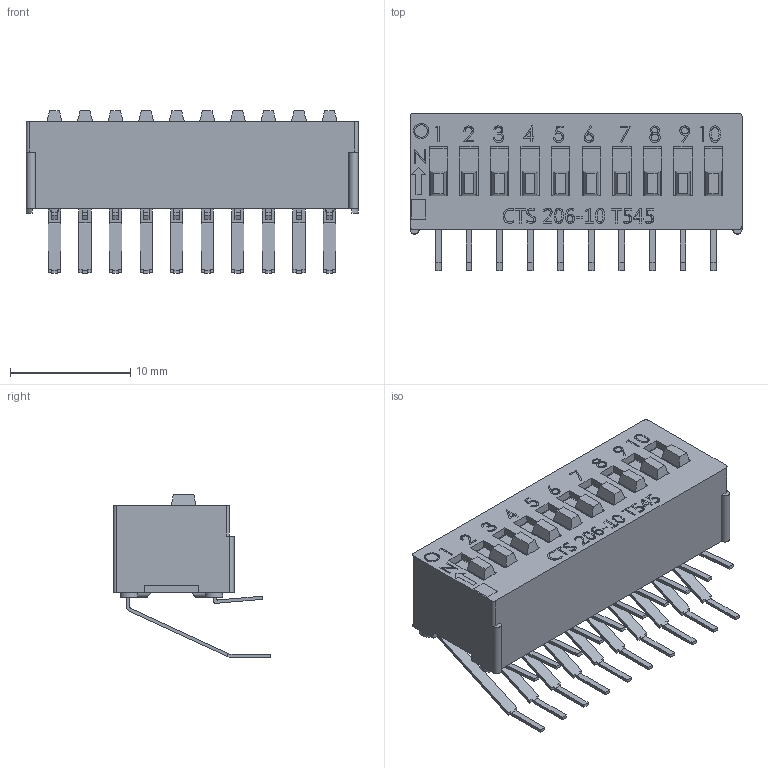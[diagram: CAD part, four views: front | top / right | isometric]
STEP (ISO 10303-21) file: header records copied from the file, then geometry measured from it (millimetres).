
FILE_DESCRIPTION (( 'STEP AP214' ), '1' );
FILE_NAME ('206-10RA.STEP', '2019-05-24T07:01:22', ( '' ), ( '' ), 'SwSTEP 2.0', 'SolidWorks 2019', '' );
FILE_SCHEMA (( 'AUTOMOTIVE_DESIGN' ));
Length unit declared in the file: millimetre
Products named in the file (4): 206-10RA; 206-56-014-35-01; 206010RAS- Base assly; 206-40-240-40-01(SPST-RA)
Assembly tree (12 placements, depth 2):
  206-10RA
    206-40-240-40-01(SPST-RA)
    206-56-014-35-01  x10
    206010RAS- Base assly
Bounding box: 27.58 x 13.08 x 13.5 mm (x, y, z)
Volume: 1199.9 mm3; surface area: 3850.7 mm2
Topology: 12 solids, 12 shells, 1061 faces, 2850 edges, 1882 vertices
Faces by surface type: plane 773, bspline 152, cylinder 136
Entity records: 31570 total; most frequent: CARTESIAN_POINT 13703, ORIENTED_EDGE 3882, DIRECTION 2931, EDGE_CURVE 1941, VECTOR 1499, LINE 1499, VERTEX_POINT 1288, EDGE_LOOP 801
